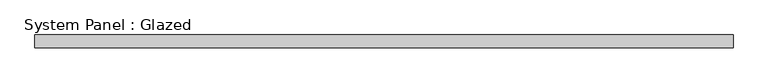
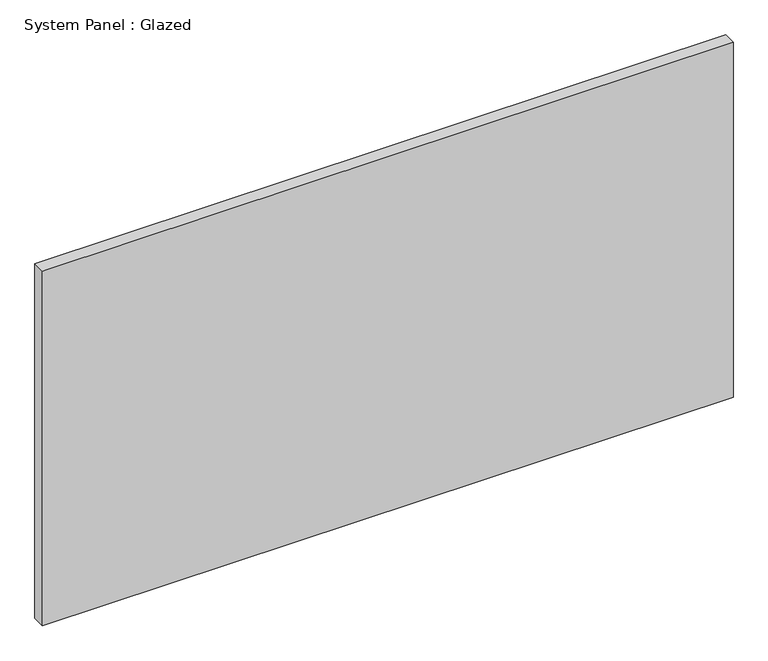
"""IFC4 building model written with IfcOpenShell, lengths in millimetres: plate geometry, System Panel : Glazed."""

from ifc_helpers import new_model, si_unit, origin, origin_with_axes, place, context, project, spatial, polyline, outline, extrude, source, transform, mapped, element, save


def system_panel_glazed_938ea41c(model_context):
    return source(origin(), model_context, "Body", "SweptSolid", [
        extrude(outline(polyline([(667.4999999, 24.5), (-667.4999999, 24.5), (-667.4999999, 49.5), (667.4999999, 49.5), (667.4999999, 24.5)])), origin_with_axes(), (0.0, 0.0, 1.0), 725.0),
    ])


if __name__ == "__main__":
    model = new_model("IFC4")
    model_context = context("Model", 3, world=origin())
    ifc_project = project(units=[si_unit("LENGTHUNIT", "METRE", prefix="MILLI")], contexts=[model_context])
    site = spatial("IfcSite", under=ifc_project)
    building = spatial("IfcBuilding", under=site)
    placement = place(None, origin())
    system_panel_glazed_shape = system_panel_glazed_938ea41c(model_context)
    element("IfcPlate", 1, ObjectType="System Panel : Glazed", at=placement, inside=building, context=model_context, shape_type="MappedRepresentation", body=[
        mapped(system_panel_glazed_shape, transform((0.0, 0.0, 0.0), x_axis=(1.0, 0.0, 0.0), y_axis=(0.0, 1.0, 0.0), z_axis=(0.0, 0.0, 1.0))),
    ])
    save(model, "model.ifc")
